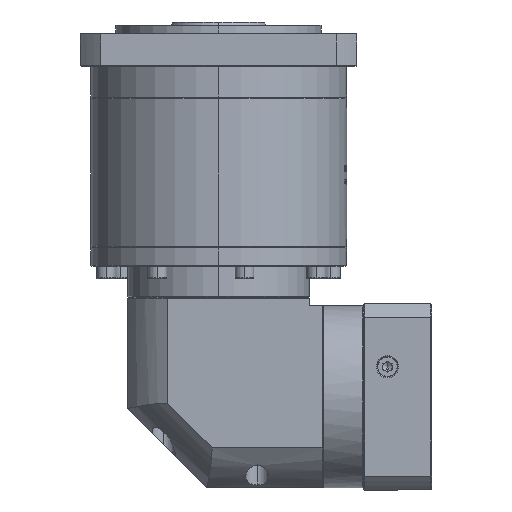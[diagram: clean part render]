
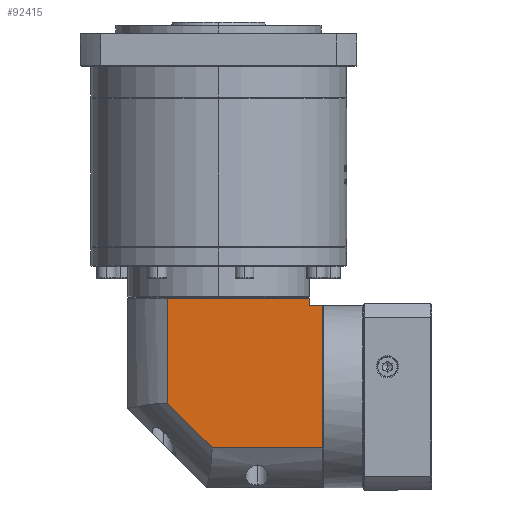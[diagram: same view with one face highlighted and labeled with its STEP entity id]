
A CAD part, left-side view. The second image highlights one B-rep face of the part: STEP entity #92415.
In plain terms, the highlighted planar face has unit normal (-1, 0, 0).
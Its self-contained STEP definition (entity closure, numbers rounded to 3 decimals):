
#4229 = EDGE_CURVE ( 'NONE', #5675, #89857, #59014, .T. ) ;
#5675 = VERTEX_POINT ( 'NONE', #97130 ) ;
#6179 = ORIENTED_EDGE ( 'NONE', *, *, #144501, .F. ) ;
#6369 = CARTESIAN_POINT ( 'NONE',  ( -269.301, -81.742, 79.752 ) ) ;
#6984 = VECTOR ( 'NONE', #74529, 1000. ) ;
#8094 = CARTESIAN_POINT ( 'NONE',  ( -269.301, -90.142, 74.752 ) ) ;
#9818 = ORIENTED_EDGE ( 'NONE', *, *, #24325, .F. ) ;
#10728 = LINE ( 'NONE', #97907, #6984 ) ;
#11937 = EDGE_CURVE ( 'NONE', #103305, #5675, #114363, .T. ) ;
#12787 = CARTESIAN_POINT ( 'NONE',  ( -269.301, 8.158, 13.19 ) ) ;
#16355 = DIRECTION ( 'NONE',  ( 0., 0., 1. ) ) ;
#16557 = EDGE_CURVE ( 'NONE', #78179, #57497, #10728, .T. ) ;
#17936 = LINE ( 'NONE', #80058, #38407 ) ;
#21736 = ORIENTED_EDGE ( 'NONE', *, *, #73146, .F. ) ;
#22115 = EDGE_CURVE ( 'NONE', #103305, #78179, #59512, .T. ) ;
#24325 = EDGE_CURVE ( 'NONE', #151438, #89857, #17936, .T. ) ;
#25052 = EDGE_LOOP ( 'NONE', ( #21736, #6179, #123677, #32780, #146183, #75492, #9818 ) ) ;
#32780 = ORIENTED_EDGE ( 'NONE', *, *, #22115, .F. ) ;
#38407 = VECTOR ( 'NONE', #57578, 1000. ) ;
#40338 = CARTESIAN_POINT ( 'NONE',  ( -269.301, 8.158, 86.252 ) ) ;
#47023 = DIRECTION ( 'NONE',  ( 1., 0., 0. ) ) ;
#52012 = VECTOR ( 'NONE', #58358, 1000. ) ;
#54012 = CARTESIAN_POINT ( 'NONE',  ( -269.301, 8.158, 79.752 ) ) ;
#57497 = VERTEX_POINT ( 'NONE', #97168 ) ;
#57578 = DIRECTION ( 'NONE',  ( 0., -1., 0. ) ) ;
#58358 = DIRECTION ( 'NONE',  ( 0., 0.707, 0.707 ) ) ;
#58610 = CARTESIAN_POINT ( 'NONE',  ( -269.301, 33.258, 86.252 ) ) ;
#59014 = LINE ( 'NONE', #61696, #70252 ) ;
#59512 = LINE ( 'NONE', #68904, #68777 ) ;
#59655 = PLANE ( 'NONE',  #60797 ) ;
#60797 = AXIS2_PLACEMENT_3D ( 'NONE', #58610, #47023, #131617 ) ;
#61696 = CARTESIAN_POINT ( 'NONE',  ( -269.301, -81.742, -40.248 ) ) ;
#66906 = VERTEX_POINT ( 'NONE', #12787 ) ;
#68777 = VECTOR ( 'NONE', #69948, 1000. ) ;
#68904 = CARTESIAN_POINT ( 'NONE',  ( -269.301, -90.142, 86.252 ) ) ;
#69948 = DIRECTION ( 'NONE',  ( 0., 0., -1. ) ) ;
#70252 = VECTOR ( 'NONE', #110180, 1000. ) ;
#73146 = EDGE_CURVE ( 'NONE', #66906, #151438, #134423, .T. ) ;
#74529 = DIRECTION ( 'NONE',  ( 0., 1., 0. ) ) ;
#75492 = ORIENTED_EDGE ( 'NONE', *, *, #4229, .T. ) ;
#78179 = VERTEX_POINT ( 'NONE', #90791 ) ;
#80058 = CARTESIAN_POINT ( 'NONE',  ( -269.301, 33.258, 79.752 ) ) ;
#89267 = LINE ( 'NONE', #104766, #52012 ) ;
#89857 = VERTEX_POINT ( 'NONE', #6369 ) ;
#90791 = CARTESIAN_POINT ( 'NONE',  ( -269.301, -90.142, -15.148 ) ) ;
#92415 = ADVANCED_FACE ( 'NONE', ( #109402 ), #59655, .F. ) ;
#97070 = VECTOR ( 'NONE', #16355, 1000. ) ;
#97130 = CARTESIAN_POINT ( 'NONE',  ( -269.301, -81.742, 74.752 ) ) ;
#97168 = CARTESIAN_POINT ( 'NONE',  ( -269.301, -20.18, -15.148 ) ) ;
#97545 = CARTESIAN_POINT ( 'NONE',  ( -269.301, -81.742, 74.752 ) ) ;
#97907 = CARTESIAN_POINT ( 'NONE',  ( -269.301, 33.258, -15.148 ) ) ;
#103104 = VECTOR ( 'NONE', #143511, 1000. ) ;
#103305 = VERTEX_POINT ( 'NONE', #8094 ) ;
#104766 = CARTESIAN_POINT ( 'NONE',  ( -269.301, -20.18, -15.148 ) ) ;
#109402 = FACE_OUTER_BOUND ( 'NONE', #25052, .T. ) ;
#110180 = DIRECTION ( 'NONE',  ( 0., 0., 1. ) ) ;
#114363 = LINE ( 'NONE', #97545, #103104 ) ;
#123677 = ORIENTED_EDGE ( 'NONE', *, *, #16557, .F. ) ;
#131617 = DIRECTION ( 'NONE',  ( 0., 1., 0. ) ) ;
#134423 = LINE ( 'NONE', #40338, #97070 ) ;
#143511 = DIRECTION ( 'NONE',  ( 0., 1., 0. ) ) ;
#144501 = EDGE_CURVE ( 'NONE', #57497, #66906, #89267, .T. ) ;
#146183 = ORIENTED_EDGE ( 'NONE', *, *, #11937, .T. ) ;
#151438 = VERTEX_POINT ( 'NONE', #54012 ) ;
